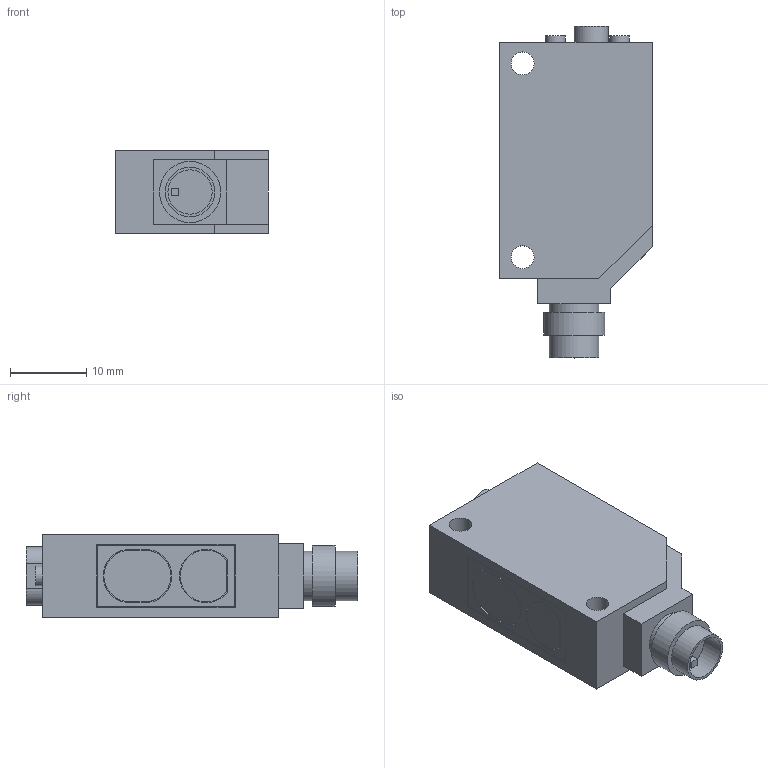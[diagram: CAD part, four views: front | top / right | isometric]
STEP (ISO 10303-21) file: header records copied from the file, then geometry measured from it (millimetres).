
FILE_DESCRIPTION(('STEP AP214'),'1');
FILE_NAME('OM.E3Z-LS86.OMS.stp','2019-09-20T13:51:24',(' '),(' '),'Spatial InterOp 3D',' ',' ');
FILE_SCHEMA(('AUTOMOTIVE_DESIGN { 1 0 10303 214 1 1 1 1 }'));
Length unit declared in the file: metre
Products named in the file (3): OM.E3Z-LS86.OMS; OM.E3Z-LS86.OMS_1; OM.E3Z-LS86.OMS_2
Assembly tree (2 placements, depth 2):
  OM.E3Z-LS86.OMS
    OM.E3Z-LS86.OMS_1
    OM.E3Z-LS86.OMS_2
Bounding box: 20 x 43.5 x 10.8 mm (x, y, z)
Volume: 6953.6 mm3; surface area: 3201.8 mm2
Topology: 2 solids, 2 shells, 73 faces, 157 edges, 105 vertices
Faces by surface type: plane 53, cylinder 20
Full cylindrical faces by diameter (mm): 2.6 x2, 2.9 x2, 3 x2, 3.1 x2, 5.8 x1, 6.5 x2, 8 x1
Entity records: 2566 total; most frequent: DIRECTION 336, CARTESIAN_POINT 324, ORIENTED_EDGE 288, EDGE_CURVE 144, AXIS2_PLACEMENT_3D 116, EDGE_LOOP 106, VERTEX_POINT 104, LINE 104
